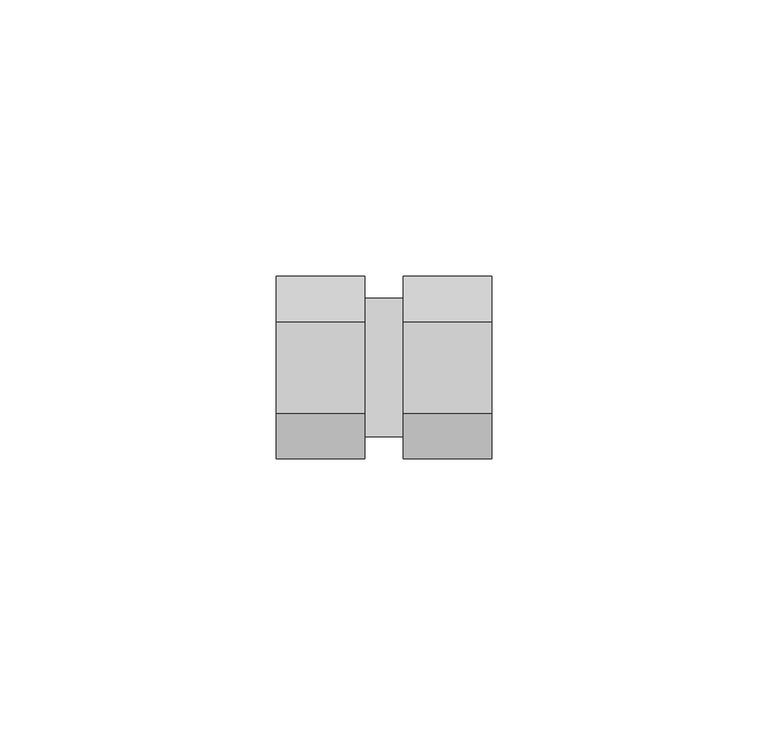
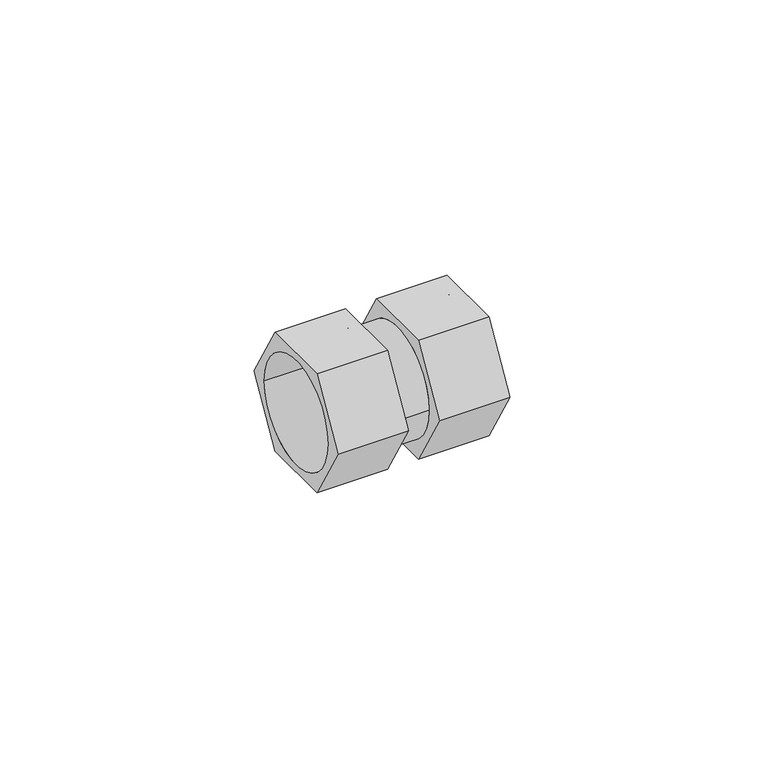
"""IFC4 building model written with IfcOpenShell, lengths in millimetres: pipe fitting geometry, БИР ПЕКС_КМП_Соединитель_Резьба_Внутренняя : Соединитель прямой с внутренней резьбой_КМП."""

from ifc_helpers import new_model, si_unit, point, frame, origin, origin_2d, place, context, project, spatial, polyline, circle_curve, trimmed, segment, composite_curve, outline, extrude, source, transform, mapped, element, save


def pipe_fitting_5943d820(model_context):
    return source(origin(), model_context, "Body", "SweptSolid", [
        extrude(outline(polyline([(-8.25, -14.2894192), (-16.5, 0.0), (-8.25, 14.2894192), (8.25, 14.2894192), (16.5, 0.0), (8.25, -14.2894192), (-8.25, -14.2894192)]), holes=[composite_curve([segment(trimmed(circle_curve(origin_2d(), 12.5), [point((-12.5, 0.0))], [point((12.5, 0.0))], True, "CARTESIAN"), True, "CONTINUOUS"), segment(trimmed(circle_curve(origin_2d(), 12.5), [point((12.5, 0.0))], [point((-12.5, 0.0))], True, "CARTESIAN"), True, "CONTINUOUS")], self_intersect=False)]), frame((-23.0, 0.0, 0.0), z_axis=(1.0, 0.0, 0.0), x_axis=(0.0, 1.0, 0.0)), (0.0, 0.0, 1.0), 16.0),
        extrude(outline(polyline([(-8.25, -14.2894192), (-16.5, 0.0), (-8.25, 14.2894192), (8.25, 14.2894192), (16.5, 0.0), (8.25, -14.2894192), (-8.25, -14.2894192)]), holes=[composite_curve([segment(trimmed(circle_curve(origin_2d(), 12.5), [point((-12.5, 0.0))], [point((12.5, 0.0))], True, "CARTESIAN"), True, "CONTINUOUS"), segment(trimmed(circle_curve(origin_2d(), 12.5), [point((12.5, 0.0))], [point((-12.5, 0.0))], True, "CARTESIAN"), True, "CONTINUOUS")], self_intersect=False)]), frame((0.0, 0.0, 0.0), z_axis=(1.0, 0.0, 0.0), x_axis=(0.0, 1.0, 0.0)), (0.0, 0.0, 1.0), 16.0),
        extrude(outline(composite_curve([segment(trimmed(circle_curve(origin_2d(), 12.5), [point((-12.5, 0.0))], [point((12.5, 0.0))], False, "CARTESIAN"), True, "CONTINUOUS"), segment(trimmed(circle_curve(origin_2d(), 12.5), [point((12.5, 0.0))], [point((-12.5, 0.0))], False, "CARTESIAN"), True, "CONTINUOUS")], self_intersect=False)), frame((-7.0, 0.0, 0.0), z_axis=(1.0, 0.0, 0.0), x_axis=(0.0, 1.0, 0.0)), (0.0, 0.0, 1.0), 7.0),
    ])


if __name__ == "__main__":
    model = new_model("IFC4")
    model_context = context("Model", 3, world=origin())
    ifc_project = project(units=[si_unit("LENGTHUNIT", "METRE", prefix="MILLI")], contexts=[model_context])
    site = spatial("IfcSite", under=ifc_project)
    building = spatial("IfcBuilding", under=site)
    placement = place(None, origin())
    pipe_fitting_shape = pipe_fitting_5943d820(model_context)
    element("IfcPipeFitting", 1, ObjectType="БИР ПЕКС_КМП_Соединитель_Резьба_Внутренняя : Соединитель прямой с внутренней резьбой_КМП", at=placement, inside=building, context=model_context, shape_type="MappedRepresentation", body=[
        mapped(pipe_fitting_shape, transform((0.0, 0.0, 0.0), x_axis=(1.0, 0.0, 0.0), y_axis=(0.0, 1.0, 0.0), z_axis=(0.0, 0.0, 1.0))),
    ])
    save(model, "model.ifc")
